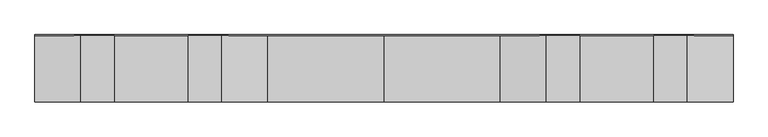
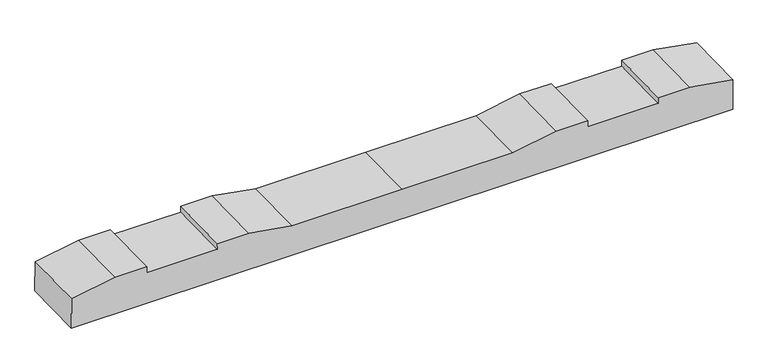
"""IFC4 building model written with IfcOpenShell, lengths in millimetres: proxy geometry, 轨枕-立面角度 : 轨枕-立面角度."""

from ifc_helpers import new_model, si_unit, frame, origin, place, context, project, spatial, polyline, outline, extrude, source, transform, mapped, element, save


def generic_models_d60f3cee(model_context):
    return source(origin(), model_context, "Body", "SweptSolid", [
        extrude(outline(polyline([(0.0, 0.0), (2099.7669328, 0.0), (2099.7669328, -100.020689), (1961.8834664, -124.5), (1861.8834664, -124.5), (1861.8834664, -104.5), (1637.8834664, -104.5), (1637.8834664, -124.5), (1537.8834664, -124.5), (1399.8834664, -100.0), (1049.8834664, -100.0), (699.8834664, -100.0), (561.8834664, -124.5), (461.8834664, -124.5), (461.8834664, -104.5), (237.8834664, -104.5), (237.8834664, -124.5), (137.8834664, -124.5), (0.0, -100.020689), (0.0, 0.0)])), frame((-1049.8834664, -97.7818622, -106.5784098), z_axis=(0.0, 0.9997791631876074, 0.02101487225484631), x_axis=(1.0, 0.0, 0.0)), (0.0, 0.0, 1.0), 200.0),
    ])


if __name__ == "__main__":
    model = new_model("IFC4")
    model_context = context("Model", 3, world=origin())
    ifc_project = project(units=[si_unit("LENGTHUNIT", "METRE", prefix="MILLI")], contexts=[model_context])
    site = spatial("IfcSite", under=ifc_project)
    building = spatial("IfcBuilding", under=site)
    placement = place(None, origin())
    generic_models_shape = generic_models_d60f3cee(model_context)
    element("IfcBuildingElementProxy", 1, Name="轨枕-立面角度 : 轨枕-立面角度", ObjectType="轨枕-立面角度 : 轨枕-立面角度", at=placement, inside=building, context=model_context, shape_type="MappedRepresentation", body=[
        mapped(generic_models_shape, transform((0.0, 0.0, 0.0), x_axis=(1.0, 0.0, 0.0), y_axis=(0.0, 1.0, 0.0), z_axis=(0.0, 0.0, 1.0))),
    ])
    save(model, "model.ifc")
